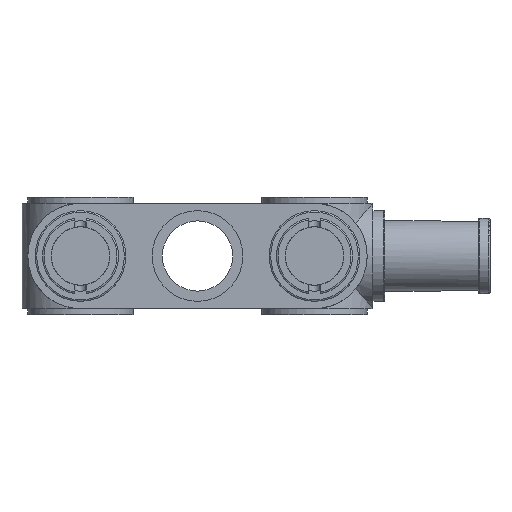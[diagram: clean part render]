
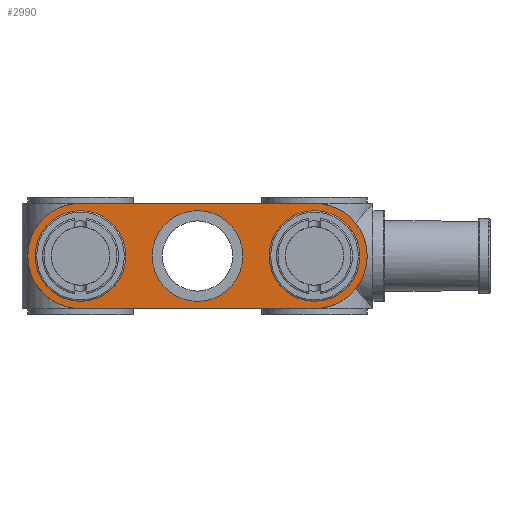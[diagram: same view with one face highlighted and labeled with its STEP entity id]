
A CAD part, left-side view. The second image highlights one B-rep face of the part: STEP entity #2990.
In plain terms, the highlighted planar face has unit normal (-1, 0, 0).
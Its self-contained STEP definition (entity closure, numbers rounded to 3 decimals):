
#68=PLANE('',#3276);
#277=LINE('',#4870,#488);
#295=LINE('',#4926,#506);
#488=VECTOR('',#3816,1000.);
#506=VECTOR('',#3860,1000.);
#877=ORIENTED_EDGE('',*,*,#1703,.T.);
#878=ORIENTED_EDGE('',*,*,#1704,.F.);
#879=ORIENTED_EDGE('',*,*,#1658,.T.);
#880=ORIENTED_EDGE('',*,*,#1705,.T.);
#881=ORIENTED_EDGE('',*,*,#1688,.F.);
#882=ORIENTED_EDGE('',*,*,#1706,.T.);
#883=ORIENTED_EDGE('',*,*,#1707,.F.);
#1658=EDGE_CURVE('',#2057,#2055,#277,.T.);
#1688=EDGE_CURVE('',#2082,#2083,#295,.T.);
#1703=EDGE_CURVE('',#2097,#2097,#2295,.T.);
#1704=EDGE_CURVE('',#2098,#2098,#2296,.T.);
#1705=EDGE_CURVE('',#2055,#2083,#2297,.T.);
#1706=EDGE_CURVE('',#2082,#2057,#2298,.T.);
#1707=EDGE_CURVE('',#2099,#2099,#2299,.T.);
#2055=VERTEX_POINT('',#4868);
#2057=VERTEX_POINT('',#4871);
#2082=VERTEX_POINT('',#4927);
#2083=VERTEX_POINT('',#4928);
#2097=VERTEX_POINT('',#4958);
#2098=VERTEX_POINT('',#4960);
#2099=VERTEX_POINT('',#4964);
#2295=CIRCLE('',#3277,3.1);
#2296=CIRCLE('',#3278,3.1);
#2297=CIRCLE('',#3279,3.6);
#2298=CIRCLE('',#3280,3.6);
#2299=CIRCLE('',#3281,3.1);
#2423=EDGE_LOOP('',(#877));
#2424=EDGE_LOOP('',(#878));
#2425=EDGE_LOOP('',(#879,#880,#881,#882));
#2426=EDGE_LOOP('',(#883));
#2673=FACE_BOUND('',#2423,.T.);
#2674=FACE_BOUND('',#2424,.T.);
#2675=FACE_BOUND('',#2425,.T.);
#2676=FACE_BOUND('',#2426,.T.);
#2990=ADVANCED_FACE('',(#2673,#2674,#2675,#2676),#68,.F.);
#3276=AXIS2_PLACEMENT_3D('',#4956,#3878,#3879);
#3277=AXIS2_PLACEMENT_3D('',#4957,#3880,#3881);
#3278=AXIS2_PLACEMENT_3D('',#4959,#3882,#3883);
#3279=AXIS2_PLACEMENT_3D('',#4961,#3884,#3885);
#3280=AXIS2_PLACEMENT_3D('',#4962,#3886,#3887);
#3281=AXIS2_PLACEMENT_3D('',#4963,#3888,#3889);
#3816=DIRECTION('',(0.,-1.,0.));
#3860=DIRECTION('',(0.,-1.,0.));
#3878=DIRECTION('',(1.,0.,0.));
#3879=DIRECTION('',(0.,1.,0.));
#3880=DIRECTION('',(1.,0.,0.));
#3881=DIRECTION('',(0.,0.,-1.));
#3882=DIRECTION('',(-1.,0.,0.));
#3883=DIRECTION('',(0.,0.,1.));
#3884=DIRECTION('',(-1.,0.,0.));
#3885=DIRECTION('',(0.,0.,1.));
#3886=DIRECTION('',(-1.,0.,0.));
#3887=DIRECTION('',(0.,0.,1.));
#3888=DIRECTION('',(-1.,0.,0.));
#3889=DIRECTION('',(0.,0.,1.));
#4868=CARTESIAN_POINT('',(-4.,0.,-3.6));
#4870=CARTESIAN_POINT('',(-4.,16.,-3.6));
#4871=CARTESIAN_POINT('',(-4.,16.,-3.6));
#4926=CARTESIAN_POINT('',(-4.,16.,3.6));
#4927=CARTESIAN_POINT('',(-4.,16.,3.6));
#4928=CARTESIAN_POINT('',(-4.,0.,3.6));
#4956=CARTESIAN_POINT('',(-4.,16.,3.6));
#4957=CARTESIAN_POINT('',(-4.,8.,0.));
#4958=CARTESIAN_POINT('',(-4.,8.,-3.1));
#4959=CARTESIAN_POINT('',(-4.,16.,0.));
#4960=CARTESIAN_POINT('',(-4.,16.,3.1));
#4961=CARTESIAN_POINT('',(-4.,0.,0.));
#4962=CARTESIAN_POINT('',(-4.,16.,0.));
#4963=CARTESIAN_POINT('',(-4.,0.,0.));
#4964=CARTESIAN_POINT('',(-4.,0.,3.1));
